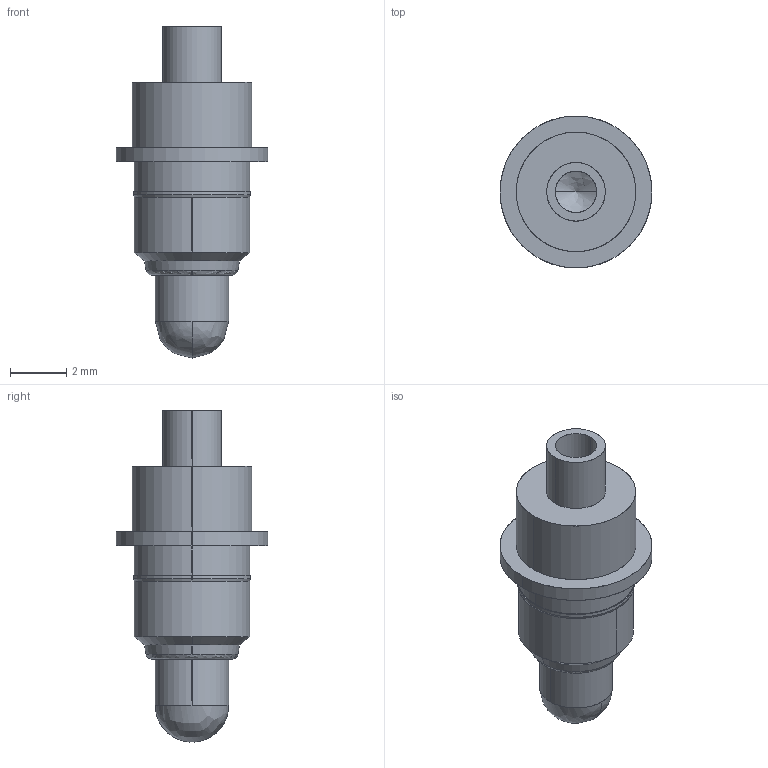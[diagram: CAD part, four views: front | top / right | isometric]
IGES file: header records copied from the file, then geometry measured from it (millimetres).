
Start section: SolidWorks IGES file using analytic representation for surfaces
Global section: file name: F:\OneDrive\Desktop\Coda\22.7\Back Fitment Completed\PD11J-SP RTP\PD11J-SP.IGS; native system: SolidWorks 2021; preprocessor: SolidWorks 2021; author: Georg; date: 210722.144936; units: millimetre
Bounding box: 5.4 x 5.4 x 11.8 mm (x, y, z)
Surface area: 172.6 mm2 (no closed solid volume)
Topology: 0 solids, 0 shells, 34 faces, 518 edges, 512 vertices
Faces by surface type: revolution 24, bspline 10
